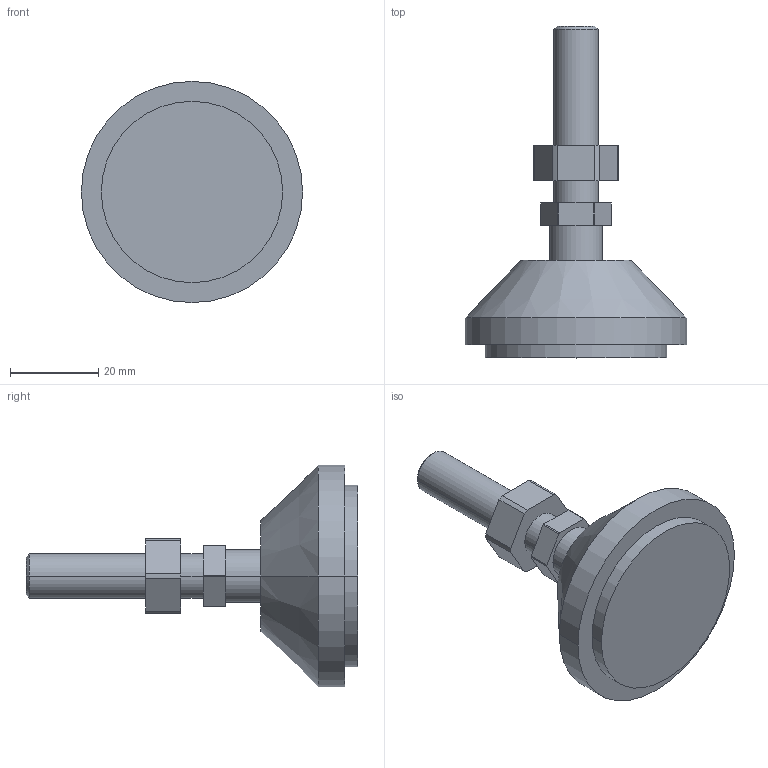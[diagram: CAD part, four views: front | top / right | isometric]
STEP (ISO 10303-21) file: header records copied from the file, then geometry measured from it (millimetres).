
FILE_DESCRIPTION((''),'2;1');
FILE_NAME('SUP05010','2002-12-27T',('Lipro doo'),('Lipro d.o.o.'),'PRO/ENGINEER BY PARAMETRIC TECHNOLOGY CORPORATION, 2001150','PRO/ENGINEER BY PARAMETRIC TECHNOLOGY CORPORATION, 2001150','');
FILE_SCHEMA(('CONFIG_CONTROL_DESIGN'));
Length unit declared in the file: millimetre
Products named in the file (1): SUP05010
Bounding box: 50 x 75 x 50 mm (x, y, z)
Volume: 36883.3 mm3; surface area: 9426.7 mm2
Topology: 1 solids, 2 shells, 48 faces, 116 edges, 76 vertices
Faces by surface type: cylinder 24, plane 20, cone 4
Entity records: 1464 total; most frequent: DIRECTION 266, CARTESIAN_POINT 241, ORIENTED_EDGE 228, EDGE_CURVE 116, AXIS2_PLACEMENT_3D 101, VERTEX_POINT 76, VECTOR 64, LINE 64
